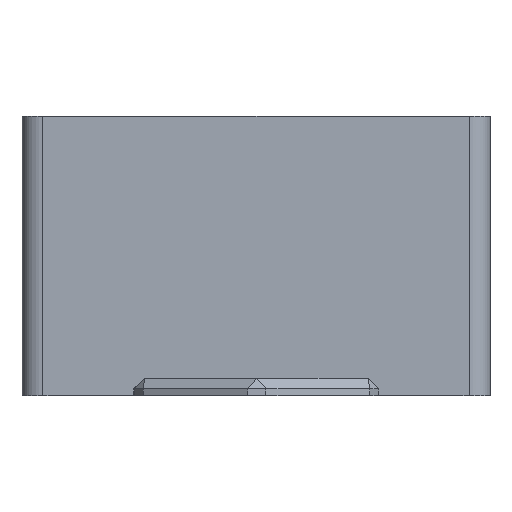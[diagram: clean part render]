
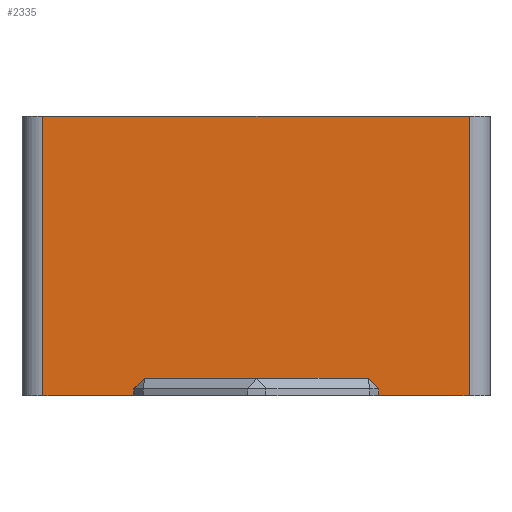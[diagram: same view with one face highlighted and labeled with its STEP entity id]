
A CAD part, left-side view. The second image highlights one B-rep face of the part: STEP entity #2335.
In plain terms, the highlighted planar face has unit normal (-1, 0, 0).
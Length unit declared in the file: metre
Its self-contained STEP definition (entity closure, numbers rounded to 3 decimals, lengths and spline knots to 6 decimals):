
#115=LINE('',#3455,#382);
#214=LINE('',#3685,#481);
#215=LINE('',#3688,#482);
#216=LINE('',#3690,#483);
#217=LINE('',#3692,#484);
#218=LINE('',#3694,#485);
#219=LINE('',#3696,#486);
#220=LINE('',#3698,#487);
#221=LINE('',#3699,#488);
#222=LINE('',#3701,#489);
#382=VECTOR('',#2759,1.);
#481=VECTOR('',#2938,1.);
#482=VECTOR('',#2939,1.);
#483=VECTOR('',#2940,1.);
#484=VECTOR('',#2941,1.);
#485=VECTOR('',#2942,1.);
#486=VECTOR('',#2943,1.);
#487=VECTOR('',#2944,1.);
#488=VECTOR('',#2945,1.);
#489=VECTOR('',#2946,1.);
#831=ORIENTED_EDGE('',*,*,#1442,.F.);
#832=ORIENTED_EDGE('',*,*,#1443,.T.);
#833=ORIENTED_EDGE('',*,*,#1444,.F.);
#834=ORIENTED_EDGE('',*,*,#1445,.T.);
#835=ORIENTED_EDGE('',*,*,#1446,.F.);
#836=ORIENTED_EDGE('',*,*,#1447,.F.);
#837=ORIENTED_EDGE('',*,*,#1448,.T.);
#838=ORIENTED_EDGE('',*,*,#1324,.T.);
#839=ORIENTED_EDGE('',*,*,#1449,.T.);
#840=ORIENTED_EDGE('',*,*,#1450,.F.);
#1324=EDGE_CURVE('',#1644,#1643,#115,.T.);
#1442=EDGE_CURVE('',#1735,#1736,#214,.T.);
#1443=EDGE_CURVE('',#1735,#1737,#215,.F.);
#1444=EDGE_CURVE('',#1738,#1737,#216,.T.);
#1445=EDGE_CURVE('',#1738,#1739,#217,.F.);
#1446=EDGE_CURVE('',#1740,#1739,#218,.T.);
#1447=EDGE_CURVE('',#1741,#1740,#219,.T.);
#1448=EDGE_CURVE('',#1741,#1644,#220,.F.);
#1449=EDGE_CURVE('',#1643,#1742,#221,.T.);
#1450=EDGE_CURVE('',#1736,#1742,#222,.T.);
#1643=VERTEX_POINT('',#3454);
#1644=VERTEX_POINT('',#3456);
#1735=VERTEX_POINT('',#3686);
#1736=VERTEX_POINT('',#3687);
#1737=VERTEX_POINT('',#3689);
#1738=VERTEX_POINT('',#3691);
#1739=VERTEX_POINT('',#3693);
#1740=VERTEX_POINT('',#3695);
#1741=VERTEX_POINT('',#3697);
#1742=VERTEX_POINT('',#3700);
#1910=EDGE_LOOP('',(#831,#832,#833,#834,#835,#836,#837,#838,#839,#840));
#2078=FACE_BOUND('',#1910,.T.);
#2242=PLANE('',#2520);
#2335=ADVANCED_FACE('',(#2078),#2242,.T.);
#2520=AXIS2_PLACEMENT_3D('',#3684,#2936,#2937);
#2759=DIRECTION('',(0.,1.,0.));
#2936=DIRECTION('',(-1.,0.,0.));
#2937=DIRECTION('',(0.,0.,1.));
#2938=DIRECTION('',(0.,0.,-1.));
#2939=DIRECTION('',(0.,0.707,-0.707));
#2940=DIRECTION('',(0.,1.,0.));
#2941=DIRECTION('',(0.,0.707,0.707));
#2942=DIRECTION('',(0.,0.,1.));
#2943=DIRECTION('',(0.,1.,0.));
#2944=DIRECTION('',(0.,0.,-1.));
#2945=DIRECTION('',(0.,0.,-1.));
#2946=DIRECTION('',(0.,1.,0.));
#3454=CARTESIAN_POINT('',(-0.0375,0.0305,0.0375));
#3455=CARTESIAN_POINT('',(-0.0375,0.,0.0375));
#3456=CARTESIAN_POINT('',(-0.0375,-0.0305,0.0375));
#3684=CARTESIAN_POINT('',(-0.0375,0.,0.0375));
#3685=CARTESIAN_POINT('',(-0.0375,0.017485,0.0375));
#3686=CARTESIAN_POINT('',(-0.0375,0.017485,-0.0015));
#3687=CARTESIAN_POINT('',(-0.0375,0.017485,-0.0025));
#3688=CARTESIAN_POINT('',(-0.0375,0.015992,-0.000007));
#3689=CARTESIAN_POINT('',(-0.0375,0.015985,0.));
#3690=CARTESIAN_POINT('',(-0.0375,0.,0.));
#3691=CARTESIAN_POINT('',(-0.0375,-0.016016,0.));
#3692=CARTESIAN_POINT('',(-0.0375,-0.016008,0.000008));
#3693=CARTESIAN_POINT('',(-0.0375,-0.017516,-0.0015));
#3694=CARTESIAN_POINT('',(-0.0375,-0.017516,0.0375));
#3695=CARTESIAN_POINT('',(-0.0375,-0.017516,-0.0025));
#3696=CARTESIAN_POINT('',(-0.0375,0.,-0.0025));
#3697=CARTESIAN_POINT('',(-0.0375,-0.0305,-0.0025));
#3698=CARTESIAN_POINT('',(-0.0375,-0.0305,0.0375));
#3699=CARTESIAN_POINT('',(-0.0375,0.0305,-0.0025));
#3700=CARTESIAN_POINT('',(-0.0375,0.0305,-0.0025));
#3701=CARTESIAN_POINT('',(-0.0375,0.,-0.0025));
